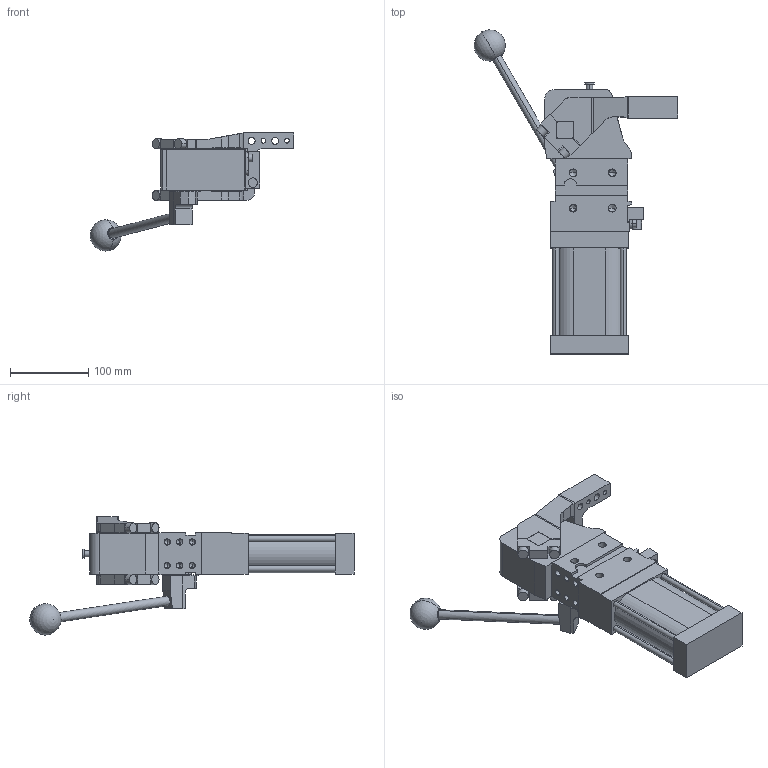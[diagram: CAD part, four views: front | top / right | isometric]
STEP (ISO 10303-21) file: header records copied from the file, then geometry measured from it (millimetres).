
FILE_DESCRIPTION (( 'STEP AP214' ), '1' );
FILE_NAME ('cplm63lbv1ssi1g_16.STEP', '2023-01-26T14:32:01', ( '' ), ( '' ), 'SwSTEP 2.0', 'SolidWorks 2022', '' );
FILE_SCHEMA (( 'AUTOMOTIVE_DESIGN' ));
Length unit declared in the file: millimetre
Products named in the file (5): cplm63lbv1ssi1g_16; leva_dx_offset_15_cpl63; meccanica_cplm_63; blocchetto_VEP_0; comando_manuale_cplm_63
Assembly tree (4 placements, depth 2):
  cplm63lbv1ssi1g_16
    meccanica_cplm_63
    blocchetto_VEP_0
    leva_dx_offset_15_cpl63
    comando_manuale_cplm_63
Bounding box: 260.54 x 414.46 x 151 mm (x, y, z)
Volume: 1866232.6 mm3; surface area: 206774.2 mm2
Topology: 4 solids, 4 shells, 430 faces, 1128 edges, 699 vertices
Faces by surface type: plane 217, cylinder 161, cone 50, sphere 2
Entity records: 14523 total; most frequent: CARTESIAN_POINT 2312, DIRECTION 2297, ORIENTED_EDGE 2154, EDGE_CURVE 1077, AXIS2_PLACEMENT_3D 795, LINE 707, VECTOR 707, VERTEX_POINT 696
